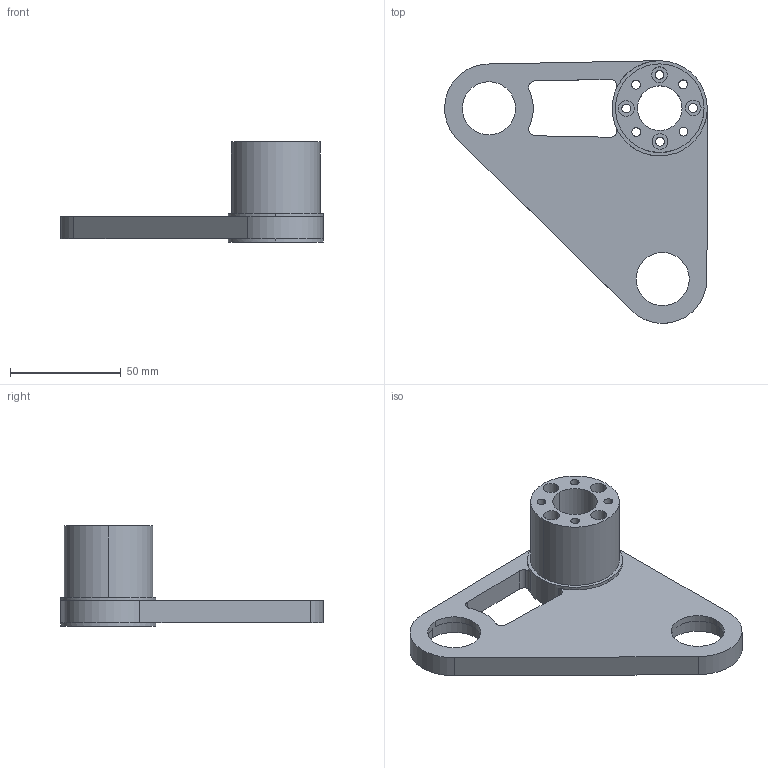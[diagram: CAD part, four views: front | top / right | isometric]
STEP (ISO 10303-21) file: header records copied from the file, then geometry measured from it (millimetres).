
FILE_DESCRIPTION (( 'STEP AP214' ), '1' );
FILE_NAME ('Cover_Under.STEP', '2026-07-28T10:12:32', ( '' ), ( '' ), 'SwSTEP 2.0', 'SolidWorks 2024', '' );
FILE_SCHEMA (( 'AUTOMOTIVE_DESIGN' ));
Length unit declared in the file: millimetre
Products named in the file (1): Cover_Under
Bounding box: 118.61 x 118.58 x 45.2 mm (x, y, z)
Volume: 98472.8 mm3; surface area: 34700.4 mm2
Topology: 1 solids, 1 shells, 77 faces, 195 edges, 130 vertices
Faces by surface type: cylinder 57, plane 20
Entity records: 2460 total; most frequent: DIRECTION 471, CARTESIAN_POINT 403, ORIENTED_EDGE 390, AXIS2_PLACEMENT_3D 198, EDGE_CURVE 195, VERTEX_POINT 130, CIRCLE 120, EDGE_LOOP 111
